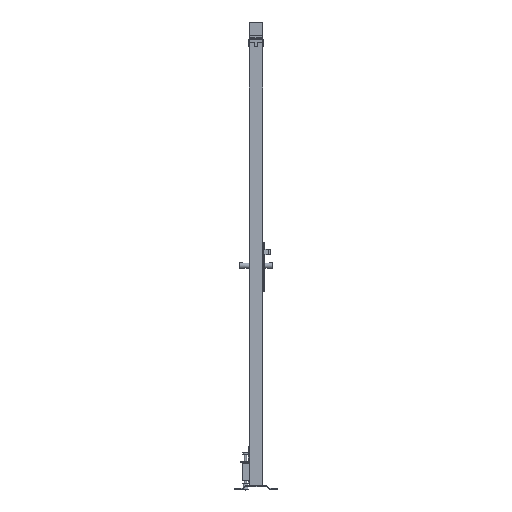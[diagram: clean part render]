
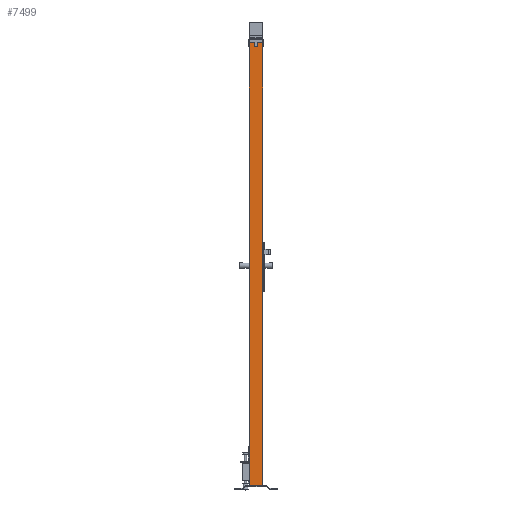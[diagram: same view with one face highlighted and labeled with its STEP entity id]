
A CAD part, left-side view. The second image highlights one B-rep face of the part: STEP entity #7499.
In plain terms, the highlighted planar face has unit normal (-1, 0, 0).
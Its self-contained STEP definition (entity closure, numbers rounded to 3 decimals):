
#940=FACE_OUTER_BOUND('',#1337,.T.);
#1337=EDGE_LOOP('',(#5611,#5612,#5613,#5614));
#1896=LINE('',#11046,#2781);
#1900=LINE('',#11055,#2785);
#1902=LINE('',#11058,#2787);
#1904=LINE('',#11061,#2789);
#2781=VECTOR('',#8866,1.);
#2785=VECTOR('',#8872,1.);
#2787=VECTOR('',#8876,1.);
#2789=VECTOR('',#8880,1.);
#3600=VERTEX_POINT('',#11043);
#3601=VERTEX_POINT('',#11045);
#3604=VERTEX_POINT('',#11052);
#3605=VERTEX_POINT('',#11054);
#4380=EDGE_CURVE('',#3600,#3601,#1896,.T.);
#4384=EDGE_CURVE('',#3604,#3605,#1900,.T.);
#4386=EDGE_CURVE('',#3601,#3604,#1902,.T.);
#4388=EDGE_CURVE('',#3600,#3605,#1904,.T.);
#5611=ORIENTED_EDGE('',*,*,#4388,.T.);
#5612=ORIENTED_EDGE('',*,*,#4384,.F.);
#5613=ORIENTED_EDGE('',*,*,#4386,.F.);
#5614=ORIENTED_EDGE('',*,*,#4380,.F.);
#7181=PLANE('',#7953);
#7499=ADVANCED_FACE('',(#940),#7181,.F.);
#7953=AXIS2_PLACEMENT_3D('',#11060,#8878,#8879);
#8866=DIRECTION('',(0.,-1.,0.));
#8872=DIRECTION('',(0.,1.,0.));
#8876=DIRECTION('',(0.,0.,-1.));
#8878=DIRECTION('center_axis',(1.,0.,0.));
#8879=DIRECTION('ref_axis',(0.,0.,-1.));
#8880=DIRECTION('',(0.,0.,-1.));
#11043=CARTESIAN_POINT('',(-30.,30.,2020.));
#11045=CARTESIAN_POINT('',(-30.,-30.,2020.));
#11046=CARTESIAN_POINT('',(-30.,0.,2020.));
#11052=CARTESIAN_POINT('',(-30.,-30.,20.));
#11054=CARTESIAN_POINT('',(-30.,30.,20.));
#11055=CARTESIAN_POINT('',(-30.,0.,20.));
#11058=CARTESIAN_POINT('',(-30.,-30.,1020.));
#11060=CARTESIAN_POINT('Origin',(-30.,0.,
1020.));
#11061=CARTESIAN_POINT('',(-30.,30.,1020.));
